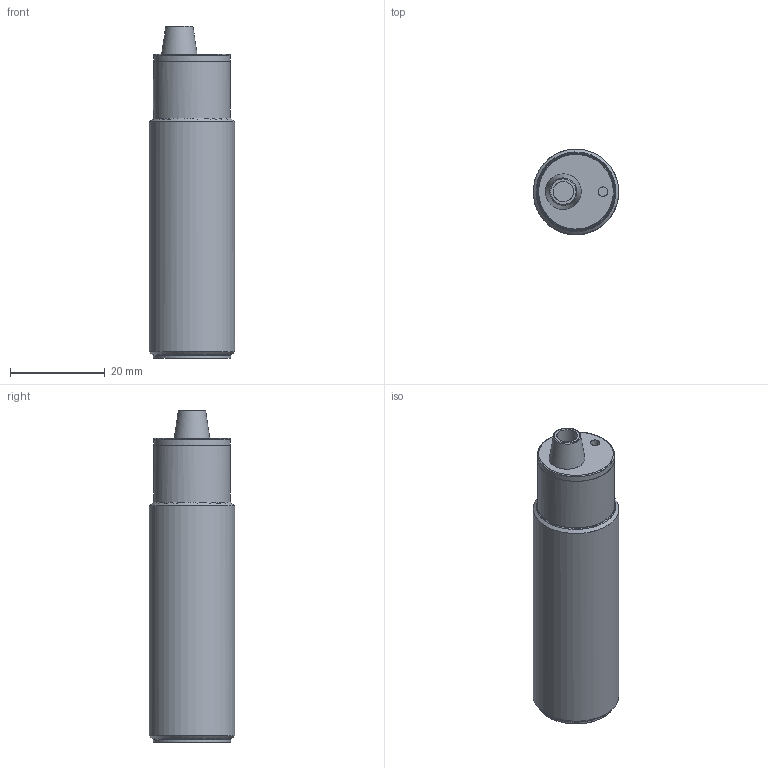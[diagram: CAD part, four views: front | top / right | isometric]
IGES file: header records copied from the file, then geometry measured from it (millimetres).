
Global section: file name: D:\dd\DSD-0328.igs; preprocessor: I-DEAS 3D IGES Translator 13; date: 20100122.165054; units: millimetre
Bounding box: 17.97 x 17.98 x 69.9 mm (x, y, z)
Surface area: 9541.8 mm2 (no closed solid volume)
Topology: 0 solids, 0 shells, 25 faces, 182 edges, 149 vertices
Faces by surface type: bspline 25
